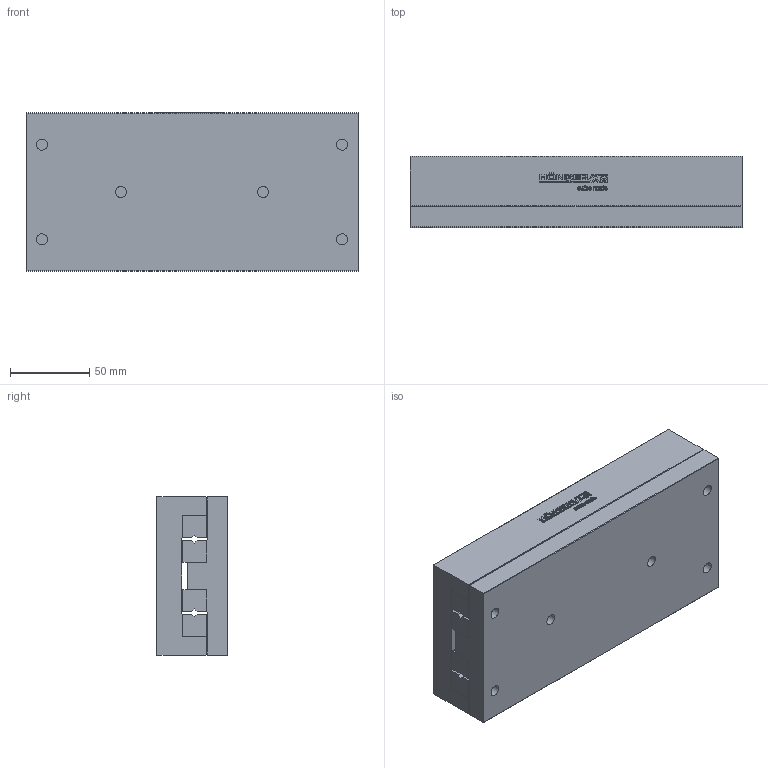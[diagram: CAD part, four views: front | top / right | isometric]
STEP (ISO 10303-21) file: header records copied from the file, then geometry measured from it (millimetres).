
FILE_DESCRIPTION(/* description */ ('STEP AP214'),/* implementation_level */ '2;1');
FILE_NAME(/* name */ 'NK 6-210-B(0)',/* time_stamp */ '2025-04-22T17:50:42+02:00',/* author */ ('License CC BY-ND 4.0'),/* organization */ ('CADENAS'),/* preprocessor_version */ 'ST-DEVELOPER v19.3',/* originating_system */ 'PARTsolutions',/* authorisation */ ' ');
FILE_SCHEMA (('AUTOMOTIVE_DESIGN {1 0 10303 214 3 1 1}'));
Length unit declared in the file: millimetre
Products named in the file (3): NK 6-210-B(0); NK 6-210-B_1; NK 6-210-B_2
Assembly tree (2 placements, depth 2):
  NK 6-210-B(0)
    NK 6-210-B_1
    NK 6-210-B_2
Bounding box: 210 x 45 x 100 mm (x, y, z)
Volume: 903175.9 mm3; surface area: 152965.9 mm2
Topology: 2 solids, 2 shells, 599 faces, 1662 edges, 1096 vertices
Faces by surface type: cylinder 310, plane 277, cone 12
Full cylindrical faces by diameter (mm): 4.917 x6, 7 x6, 11 x6
Entity records: 19237 total; most frequent: DIRECTION 3468, CARTESIAN_POINT 3318, ORIENTED_EDGE 3252, EDGE_CURVE 1626, AXIS2_PLACEMENT_3D 1240, VERTEX_POINT 1090, LINE 988, VECTOR 988
